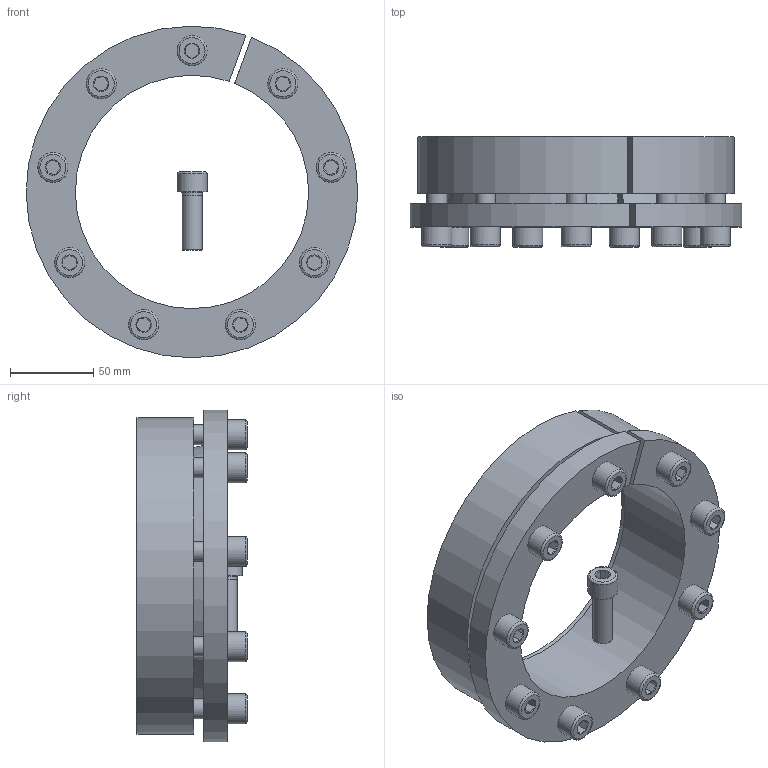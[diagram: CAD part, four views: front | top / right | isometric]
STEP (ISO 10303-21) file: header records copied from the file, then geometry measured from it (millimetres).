
FILE_DESCRIPTION( ( 'Unknown' ), '1' );
FILE_NAME( 'C:/Dokumente und Einstellungen/Sven/Desktop/homepage/cad - homepage/KBS16/KBS 16 - 140 x 190.stp', 'Unknown', ( 'Unknown' ), ( 'Unknown' ), 'XStep 1.0', 'Unknown', ' ' );
FILE_SCHEMA( ( 'automotive_design' ) );
Length unit declared in the file: millimetre
Products named in the file (3): Assem1; KBS 16 - 140 x 190; ISO EN DIN 4762 M12x35
Bounding box: 198.99 x 66 x 198.99 mm (x, y, z)
Volume: 1321360.2 mm3; surface area: 267436 mm2
Topology: 12 solids, 12 shells, 310 faces, 616 edges, 370 vertices
Faces by surface type: plane 134, cylinder 82, cone 74, torus 20
Full cylindrical faces by diameter (mm): 11 x10, 12 x56, 18 x10
Entity records: 1848 total; most frequent: CARTESIAN_POINT 304, DIRECTION 286, ORIENTED_EDGE 202, AXIS2_PLACEMENT_3D 129, EDGE_LOOP 120, EDGE_CURVE 101, FACE_OUTER_BOUND 79, VERTEX_POINT 79
